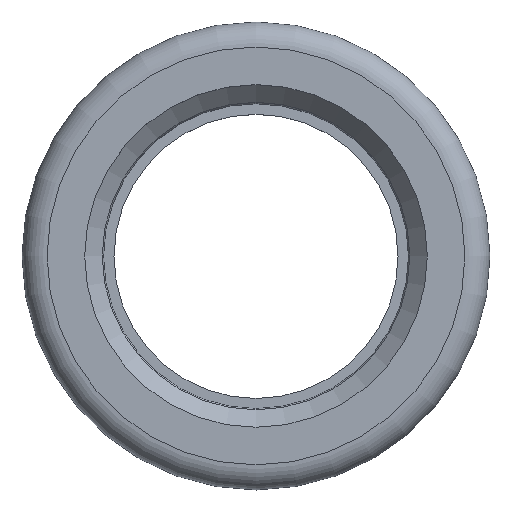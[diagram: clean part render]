
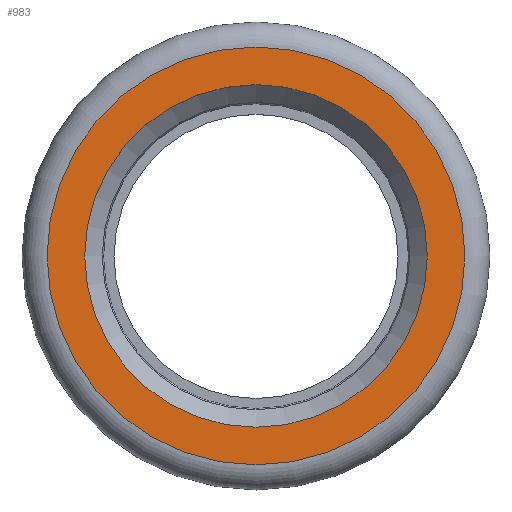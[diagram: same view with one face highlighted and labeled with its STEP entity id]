
A CAD part, top view. The second image highlights one B-rep face of the part: STEP entity #983.
In plain terms, the highlighted planar face has unit normal (0, 0, 1).
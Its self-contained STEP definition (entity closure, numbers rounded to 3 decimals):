
#68=PLANE('',#1126);
#142=FACE_BOUND('',#350,.T.);
#143=FACE_BOUND('',#351,.T.);
#350=EDGE_LOOP('',(#765));
#351=EDGE_LOOP('',(#766));
#461=CIRCLE('',#1127,20.5);
#462=CIRCLE('',#1128,25.);
#544=VERTEX_POINT('',#1685);
#545=VERTEX_POINT('',#1687);
#627=EDGE_CURVE('',#544,#544,#461,.T.);
#628=EDGE_CURVE('',#545,#545,#462,.T.);
#765=ORIENTED_EDGE('',*,*,#627,.T.);
#766=ORIENTED_EDGE('',*,*,#628,.F.);
#983=ADVANCED_FACE('',(#142,#143),#68,.T.);
#1126=AXIS2_PLACEMENT_3D('',#1684,#1407,#1408);
#1127=AXIS2_PLACEMENT_3D('',#1686,#1409,#1410);
#1128=AXIS2_PLACEMENT_3D('',#1688,#1411,#1412);
#1407=DIRECTION('center_axis',(0.,0.,1.));
#1408=DIRECTION('ref_axis',(1.,0.,0.));
#1409=DIRECTION('center_axis',(0.,0.,-1.));
#1410=DIRECTION('ref_axis',(1.,0.,0.));
#1411=DIRECTION('center_axis',(0.,0.,-1.));
#1412=DIRECTION('ref_axis',(1.,0.,0.));
#1684=CARTESIAN_POINT('Origin',(0.,25.,33.5));
#1685=CARTESIAN_POINT('',(0.,20.5,33.5));
#1686=CARTESIAN_POINT('Origin',(0.,0.,33.5));
#1687=CARTESIAN_POINT('',(0.,25.,33.5));
#1688=CARTESIAN_POINT('Origin',(0.,0.,33.5));
